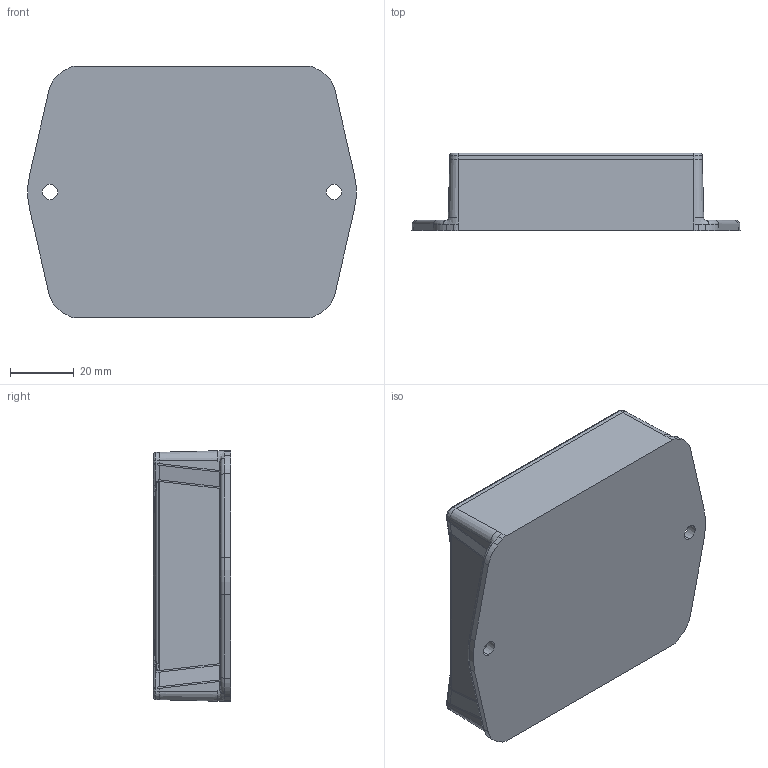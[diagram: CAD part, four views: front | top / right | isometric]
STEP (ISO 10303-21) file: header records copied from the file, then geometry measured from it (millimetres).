
FILE_DESCRIPTION (( 'STEP AP214' ), '1' );
FILE_NAME ('BT-3308XX.STEP', '2010-11-03T20:34:50', ( 'Designer2010' ), ( '' ), 'SwSTEP 2.0', 'SolidWorks 2010', '' );
FILE_SCHEMA (( 'AUTOMOTIVE_DESIGN' ));
Length unit declared in the file: inch
Products named in the file (4): B_-33C_BT-33C; B_-33xxB_BT-3308BXX; SCREWS-LP-BR_SCREWS-LP-BR; BT-3308XX
Assembly tree (6 placements, depth 2):
  BT-3308XX
    SCREWS-LP-BR_SCREWS-LP-BR  x4
    B_-33xxB_BT-3308BXX
    B_-33C_BT-33C
Bounding box: 102.68 x 24.13 x 78.63 mm (x, y, z)
Volume: 44864.9 mm3; surface area: 43571.6 mm2
Topology: 6 solids, 6 shells, 819 faces, 2302 edges, 1500 vertices
Faces by surface type: cone 304, cylinder 236, plane 203, bspline 58, torus 10, sphere 8
Entity records: 29590 total; most frequent: CARTESIAN_POINT 13891, ORIENTED_EDGE 3410, DIRECTION 3275, EDGE_CURVE 1705, AXIS2_PLACEMENT_3D 1258, VERTEX_POINT 1110, VECTOR 759, LINE 759
